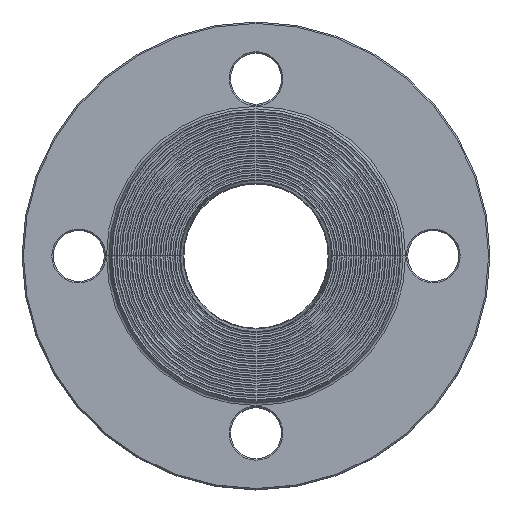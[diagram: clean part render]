
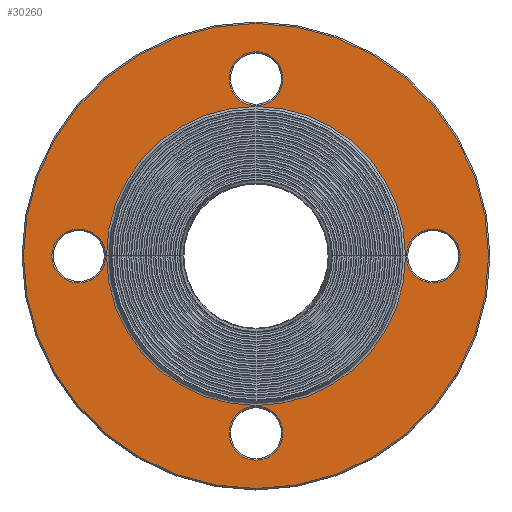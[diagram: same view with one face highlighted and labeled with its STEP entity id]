
A CAD part, top view. The second image highlights one B-rep face of the part: STEP entity #30260.
In plain terms, the highlighted planar face has unit normal (0, 0, 1).
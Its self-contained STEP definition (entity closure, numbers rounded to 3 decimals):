
#28710=CARTESIAN_POINT('',(119.5,172.5,16.));
#28720=VERTEX_POINT('',#28710);
#28750=CARTESIAN_POINT('',(110.,172.5,16.));
#28760=DIRECTION('',(0.,0.,1.));
#28770=DIRECTION('',(1.,0.,0.));
#28780=AXIS2_PLACEMENT_3D('',#28750,#28760,#28770);
#28790=CIRCLE('',#28780,9.5);
#28800=CARTESIAN_POINT('',(100.5,172.5,16.));
#28810=VERTEX_POINT('',#28800);
#28820=EDGE_CURVE('',#28810,#28720,#28790,.T.);
#29040=EDGE_CURVE('',#28720,#28810,#28790,.T.);
#29420=CARTESIAN_POINT('',(190.069,110.,16.));
#29430=DIRECTION('',(-0.,0.,1.));
#29440=DIRECTION('',(1.,0.,0.));
#29450=AXIS2_PLACEMENT_3D('',#29420,#29430,#29440);
#29460=PLANE('',#29450);
#29470=CARTESIAN_POINT('',(47.5,110.,16.));
#29480=DIRECTION('',(0.,0.,1.));
#29490=DIRECTION('',(1.,0.,0.));
#29500=AXIS2_PLACEMENT_3D('',#29470,#29480,#29490);
#29510=CIRCLE('',#29500,9.5);
#29520=CARTESIAN_POINT('',(57.,110.,16.));
#29530=VERTEX_POINT('',#29520);
#29540=CARTESIAN_POINT('',(38.,110.,16.));
#29550=VERTEX_POINT('',#29540);
#29560=EDGE_CURVE('',#29530,#29550,#29510,.T.);
#29570=ORIENTED_EDGE('',*,*,#29560,.F.);
#29580=EDGE_CURVE('',#29550,#29530,#29510,.T.);
#29590=ORIENTED_EDGE('',*,*,#29580,.F.);
#29600=EDGE_LOOP('',(#29590,#29570));
#29610=FACE_BOUND('',#29600,.T.);
#29620=CARTESIAN_POINT('',(110.,47.5,16.));
#29630=DIRECTION('',(0.,0.,1.));
#29640=DIRECTION('',(1.,0.,0.));
#29650=AXIS2_PLACEMENT_3D('',#29620,#29630,#29640);
#29660=CIRCLE('',#29650,9.5);
#29670=CARTESIAN_POINT('',(119.5,47.5,16.));
#29680=VERTEX_POINT('',#29670);
#29690=CARTESIAN_POINT('',(100.5,47.5,16.));
#29700=VERTEX_POINT('',#29690);
#29710=EDGE_CURVE('',#29680,#29700,#29660,.T.);
#29720=ORIENTED_EDGE('',*,*,#29710,.F.);
#29730=EDGE_CURVE('',#29700,#29680,#29660,.T.);
#29740=ORIENTED_EDGE('',*,*,#29730,.F.);
#29750=EDGE_LOOP('',(#29740,#29720));
#29760=FACE_BOUND('',#29750,.T.);
#29770=CARTESIAN_POINT('',(172.5,110.,16.));
#29780=DIRECTION('',(0.,0.,1.));
#29790=DIRECTION('',(1.,0.,0.));
#29800=AXIS2_PLACEMENT_3D('',#29770,#29780,#29790);
#29810=CIRCLE('',#29800,9.5);
#29820=CARTESIAN_POINT('',(182.,110.,16.));
#29830=VERTEX_POINT('',#29820);
#29840=CARTESIAN_POINT('',(163.,110.,16.));
#29850=VERTEX_POINT('',#29840);
#29860=EDGE_CURVE('',#29830,#29850,#29810,.T.);
#29870=ORIENTED_EDGE('',*,*,#29860,.F.);
#29880=EDGE_CURVE('',#29850,#29830,#29810,.T.);
#29890=ORIENTED_EDGE('',*,*,#29880,.F.);
#29900=EDGE_LOOP('',(#29890,#29870));
#29910=FACE_BOUND('',#29900,.T.);
#29920=ORIENTED_EDGE('',*,*,#29040,.F.);
#29930=ORIENTED_EDGE('',*,*,#28820,.F.);
#29940=EDGE_LOOP('',(#29930,#29920));
#29950=FACE_BOUND('',#29940,.T.);
#29960=CARTESIAN_POINT('',(110.,110.,16.));
#29970=DIRECTION('',(0.,0.,-1.));
#29980=DIRECTION('',(-1.,0.,0.));
#29990=AXIS2_PLACEMENT_3D('',#29960,#29970,#29980);
#30000=CIRCLE('',#29990,52.732);
#30010=CARTESIAN_POINT('',(162.732,110.,16.));
#30020=VERTEX_POINT('',#30010);
#30030=CARTESIAN_POINT('',(57.268,110.,16.));
#30040=VERTEX_POINT('',#30030);
#30050=EDGE_CURVE('',#30020,#30040,#30000,.T.);
#30060=ORIENTED_EDGE('',*,*,#30050,.T.);
#30070=EDGE_CURVE('',#30040,#30020,#30000,.T.);
#30080=ORIENTED_EDGE('',*,*,#30070,.T.);
#30090=EDGE_LOOP('',(#30080,#30060));
#30100=FACE_BOUND('',#30090,.T.);
#30110=CARTESIAN_POINT('',(110.,110.,16.));
#30120=DIRECTION('',(0.,0.,1.));
#30130=DIRECTION('',(1.,0.,0.));
#30140=AXIS2_PLACEMENT_3D('',#30110,#30120,#30130);
#30150=CIRCLE('',#30140,82.);
#30160=CARTESIAN_POINT('',(192.,110.,16.));
#30170=VERTEX_POINT('',#30160);
#30180=CARTESIAN_POINT('',(28.,110.,16.));
#30190=VERTEX_POINT('',#30180);
#30200=EDGE_CURVE('',#30170,#30190,#30150,.T.);
#30210=ORIENTED_EDGE('',*,*,#30200,.T.);
#30220=EDGE_CURVE('',#30190,#30170,#30150,.T.);
#30230=ORIENTED_EDGE('',*,*,#30220,.T.);
#30240=EDGE_LOOP('',(#30230,#30210));
#30250=FACE_OUTER_BOUND('',#30240,.T.);
#30260=ADVANCED_FACE('',(#29610,#29760,#29910,#29950,#30100,#30250),
#29460,.T.);
